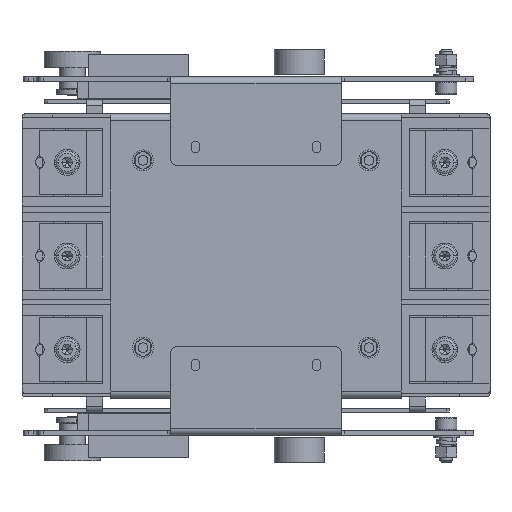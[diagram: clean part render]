
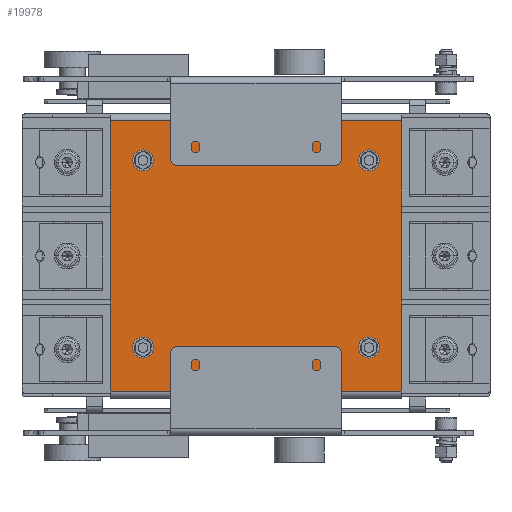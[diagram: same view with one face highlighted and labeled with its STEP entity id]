
A CAD part, front view. The second image highlights one B-rep face of the part: STEP entity #19978.
In plain terms, the highlighted planar face has unit normal (0, -1, 0).
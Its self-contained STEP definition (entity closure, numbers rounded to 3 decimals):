
#241 = DIRECTION ( 'NONE',  ( 0., 1., 0. ) ) ;
#1457 = DIRECTION ( 'NONE',  ( 0., 1., 0. ) ) ;
#2495 = VERTEX_POINT ( 'NONE', #45919 ) ;
#2762 = CARTESIAN_POINT ( 'NONE',  ( 1426.791, -152.876, 148.45 ) ) ;
#3141 = CIRCLE ( 'NONE', #17407, 3. ) ;
#3174 = AXIS2_PLACEMENT_3D ( 'NONE', #40827, #87794, #18475 ) ;
#3217 = EDGE_CURVE ( 'NONE', #23707, #36994, #49970, .T. ) ;
#5723 = AXIS2_PLACEMENT_3D ( 'NONE', #35634, #77229, #56634 ) ;
#6513 = DIRECTION ( 'NONE',  ( 0., 0., 1. ) ) ;
#6955 = CIRCLE ( 'NONE', #56960, 3. ) ;
#7609 = EDGE_CURVE ( 'NONE', #2495, #50202, #40260, .T. ) ;
#10166 = ORIENTED_EDGE ( 'NONE', *, *, #73748, .T. ) ;
#10751 = VERTEX_POINT ( 'NONE', #86754 ) ;
#12149 = CIRCLE ( 'NONE', #87883, 3. ) ;
#17407 = AXIS2_PLACEMENT_3D ( 'NONE', #17569, #24722, #59175 ) ;
#17569 = CARTESIAN_POINT ( 'NONE',  ( 1426.791, -152.876, 32.45 ) ) ;
#18187 = ORIENTED_EDGE ( 'NONE', *, *, #74275, .T. ) ;
#18475 = DIRECTION ( 'NONE',  ( 0., 0., 1. ) ) ;
#19978 = ADVANCED_FACE ( 'NONE', ( #75482, #48183, #60741, #20017, #62495 ), #88010, .F. ) ;
#20017 = FACE_BOUND ( 'NONE', #80427, .T. ) ;
#20271 = DIRECTION ( 'NONE',  ( 0., 0., 1. ) ) ;
#23302 = ORIENTED_EDGE ( 'NONE', *, *, #37490, .T. ) ;
#23707 = VERTEX_POINT ( 'NONE', #44345 ) ;
#24575 = CARTESIAN_POINT ( 'NONE',  ( 1569.791, -152.876, 32.45 ) ) ;
#24722 = DIRECTION ( 'NONE',  ( 0., 1., 0. ) ) ;
#25983 = AXIS2_PLACEMENT_3D ( 'NONE', #34224, #241, #6513 ) ;
#26303 = DIRECTION ( 'NONE',  ( 0., 1., 0. ) ) ;
#26651 = DIRECTION ( 'NONE',  ( 0., 0., 1. ) ) ;
#26978 = ORIENTED_EDGE ( 'NONE', *, *, #7609, .T. ) ;
#28799 = CIRCLE ( 'NONE', #35992, 3. ) ;
#31411 = VERTEX_POINT ( 'NONE', #56310 ) ;
#33854 = CARTESIAN_POINT ( 'NONE',  ( 1406.791, -152.876, 191.7 ) ) ;
#34224 = CARTESIAN_POINT ( 'NONE',  ( 1426.791, -152.876, 148.45 ) ) ;
#34338 = DIRECTION ( 'NONE',  ( 0., 1., 0. ) ) ;
#35634 = CARTESIAN_POINT ( 'NONE',  ( 1566.791, -152.876, 148.45 ) ) ;
#35790 = DIRECTION ( 'NONE',  ( -1., 0., 0. ) ) ;
#35992 = AXIS2_PLACEMENT_3D ( 'NONE', #2762, #70321, #49713 ) ;
#36994 = VERTEX_POINT ( 'NONE', #55234 ) ;
#37369 = CARTESIAN_POINT ( 'NONE',  ( 1563.791, -152.876, 32.45 ) ) ;
#37490 = EDGE_CURVE ( 'NONE', #56055, #69409, #12149, .T. ) ;
#38409 = VECTOR ( 'NONE', #54428, 1000. ) ;
#40260 = CIRCLE ( 'NONE', #57366, 3. ) ;
#40827 = CARTESIAN_POINT ( 'NONE',  ( 1566.791, -152.876, 148.45 ) ) ;
#40947 = EDGE_CURVE ( 'NONE', #69409, #56055, #6955, .T. ) ;
#41416 = ORIENTED_EDGE ( 'NONE', *, *, #72249, .T. ) ;
#41605 = LINE ( 'NONE', #68893, #81884 ) ;
#41785 = ORIENTED_EDGE ( 'NONE', *, *, #69458, .F. ) ;
#42163 = CARTESIAN_POINT ( 'NONE',  ( 1566.791, -152.876, 32.45 ) ) ;
#42314 = VERTEX_POINT ( 'NONE', #79316 ) ;
#43919 = VECTOR ( 'NONE', #78597, 1000. ) ;
#44345 = CARTESIAN_POINT ( 'NONE',  ( 1586.791, -152.876, 173.2 ) ) ;
#45553 = VECTOR ( 'NONE', #57923, 1000. ) ;
#45665 = CIRCLE ( 'NONE', #5723, 3. ) ;
#45919 = CARTESIAN_POINT ( 'NONE',  ( 1423.791, -152.876, 32.45 ) ) ;
#47315 = CARTESIAN_POINT ( 'NONE',  ( 1409.291, -152.876, 191.7 ) ) ;
#47462 = CIRCLE ( 'NONE', #25983, 3. ) ;
#48183 = FACE_BOUND ( 'NONE', #76905, .T. ) ;
#48519 = EDGE_LOOP ( 'NONE', ( #10166, #18187 ) ) ;
#49037 = CARTESIAN_POINT ( 'NONE',  ( 1586.791, -152.876, 5.2 ) ) ;
#49713 = DIRECTION ( 'NONE',  ( 0., 0., 1. ) ) ;
#49970 = LINE ( 'NONE', #64740, #43919 ) ;
#49999 = ORIENTED_EDGE ( 'NONE', *, *, #74597, .T. ) ;
#50202 = VERTEX_POINT ( 'NONE', #50894 ) ;
#50651 = EDGE_LOOP ( 'NONE', ( #23302, #85168 ) ) ;
#50894 = CARTESIAN_POINT ( 'NONE',  ( 1429.791, -152.876, 32.45 ) ) ;
#51048 = EDGE_CURVE ( 'NONE', #50202, #2495, #3141, .T. ) ;
#53192 = CARTESIAN_POINT ( 'NONE',  ( 1429.791, -152.876, 148.45 ) ) ;
#53358 = EDGE_LOOP ( 'NONE', ( #41785, #69212, #85987, #61488 ) ) ;
#53979 = VERTEX_POINT ( 'NONE', #53192 ) ;
#54428 = DIRECTION ( 'NONE',  ( 0., 0., 1. ) ) ;
#55234 = CARTESIAN_POINT ( 'NONE',  ( 1406.791, -152.876, 173.2 ) ) ;
#56055 = VERTEX_POINT ( 'NONE', #24575 ) ;
#56310 = CARTESIAN_POINT ( 'NONE',  ( 1423.791, -152.876, 148.45 ) ) ;
#56634 = DIRECTION ( 'NONE',  ( 0., 0., 1. ) ) ;
#56960 = AXIS2_PLACEMENT_3D ( 'NONE', #73663, #87510, #26651 ) ;
#57039 = LINE ( 'NONE', #64208, #45553 ) ;
#57366 = AXIS2_PLACEMENT_3D ( 'NONE', #72439, #26303, #86276 ) ;
#57923 = DIRECTION ( 'NONE',  ( 0., 0., -1. ) ) ;
#59175 = DIRECTION ( 'NONE',  ( 0., 0., 1. ) ) ;
#59464 = VERTEX_POINT ( 'NONE', #49037 ) ;
#60741 = FACE_BOUND ( 'NONE', #50651, .T. ) ;
#61488 = ORIENTED_EDGE ( 'NONE', *, *, #75240, .F. ) ;
#62495 = FACE_BOUND ( 'NONE', #48519, .T. ) ;
#64208 = CARTESIAN_POINT ( 'NONE',  ( 1586.791, -152.876, 191.7 ) ) ;
#64740 = CARTESIAN_POINT ( 'NONE',  ( 1631.797, -152.876, 173.2 ) ) ;
#68893 = CARTESIAN_POINT ( 'NONE',  ( 1631.797, -152.876, 5.2 ) ) ;
#69212 = ORIENTED_EDGE ( 'NONE', *, *, #3217, .T. ) ;
#69409 = VERTEX_POINT ( 'NONE', #37369 ) ;
#69458 = EDGE_CURVE ( 'NONE', #23707, #59464, #57039, .T. ) ;
#70321 = DIRECTION ( 'NONE',  ( 0., 1., 0. ) ) ;
#72249 = EDGE_CURVE ( 'NONE', #42314, #10751, #45665, .T. ) ;
#72439 = CARTESIAN_POINT ( 'NONE',  ( 1426.791, -152.876, 32.45 ) ) ;
#73350 = VERTEX_POINT ( 'NONE', #86560 ) ;
#73663 = CARTESIAN_POINT ( 'NONE',  ( 1566.791, -152.876, 32.45 ) ) ;
#73748 = EDGE_CURVE ( 'NONE', #53979, #31411, #28799, .T. ) ;
#74275 = EDGE_CURVE ( 'NONE', #31411, #53979, #47462, .T. ) ;
#74597 = EDGE_CURVE ( 'NONE', #10751, #42314, #83167, .T. ) ;
#74623 = DIRECTION ( 'NONE',  ( 1., 0., 0. ) ) ;
#75240 = EDGE_CURVE ( 'NONE', #59464, #73350, #41605, .T. ) ;
#75482 = FACE_OUTER_BOUND ( 'NONE', #53358, .T. ) ;
#76905 = EDGE_LOOP ( 'NONE', ( #49999, #41416 ) ) ;
#77229 = DIRECTION ( 'NONE',  ( 0., 1., 0. ) ) ;
#78597 = DIRECTION ( 'NONE',  ( -1., 0., 0. ) ) ;
#79316 = CARTESIAN_POINT ( 'NONE',  ( 1563.791, -152.876, 148.45 ) ) ;
#79966 = ORIENTED_EDGE ( 'NONE', *, *, #51048, .T. ) ;
#80427 = EDGE_LOOP ( 'NONE', ( #79966, #26978 ) ) ;
#81884 = VECTOR ( 'NONE', #35790, 1000. ) ;
#82795 = AXIS2_PLACEMENT_3D ( 'NONE', #47315, #34338, #74623 ) ;
#83041 = LINE ( 'NONE', #33854, #38409 ) ;
#83167 = CIRCLE ( 'NONE', #3174, 3. ) ;
#85168 = ORIENTED_EDGE ( 'NONE', *, *, #40947, .T. ) ;
#85987 = ORIENTED_EDGE ( 'NONE', *, *, #86294, .F. ) ;
#86276 = DIRECTION ( 'NONE',  ( 0., 0., 1. ) ) ;
#86294 = EDGE_CURVE ( 'NONE', #73350, #36994, #83041, .T. ) ;
#86560 = CARTESIAN_POINT ( 'NONE',  ( 1406.791, -152.876, 5.2 ) ) ;
#86754 = CARTESIAN_POINT ( 'NONE',  ( 1569.791, -152.876, 148.45 ) ) ;
#87510 = DIRECTION ( 'NONE',  ( 0., 1., 0. ) ) ;
#87794 = DIRECTION ( 'NONE',  ( 0., 1., 0. ) ) ;
#87883 = AXIS2_PLACEMENT_3D ( 'NONE', #42163, #1457, #20271 ) ;
#88010 = PLANE ( 'NONE',  #82795 ) ;
